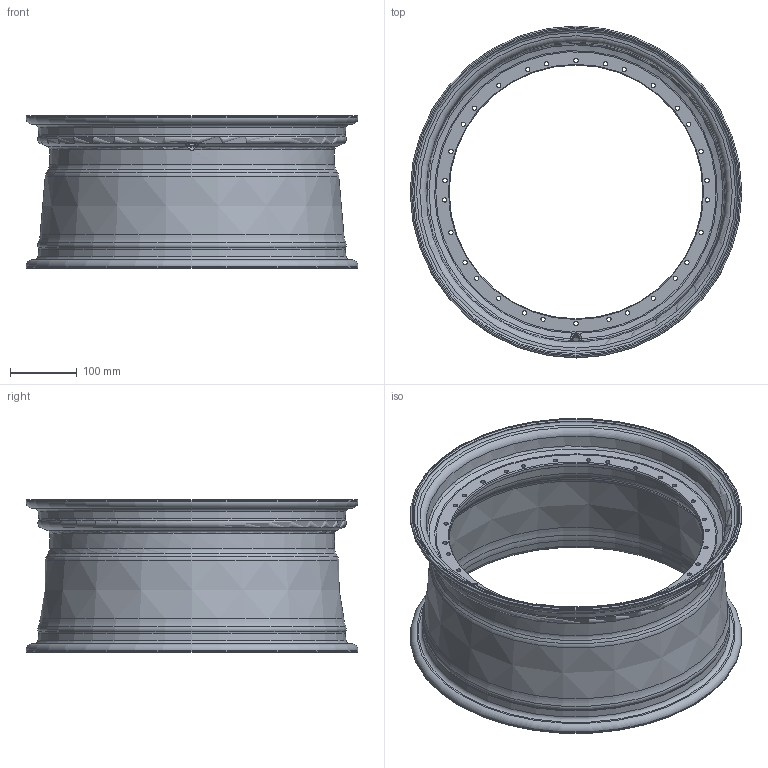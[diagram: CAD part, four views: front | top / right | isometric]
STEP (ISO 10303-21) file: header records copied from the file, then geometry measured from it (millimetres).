
FILE_DESCRIPTION(('STEP AP242'), '1');
FILE_NAME('8x18j 5x120 DIA72,6 ET30', '', ('UNSPECIFIED'), ('UNSPECIFIED'), 'C3D Converter', 'C3D Toolkit', '');
FILE_SCHEMA(('AP242_MANAGED_MODEL_BASED_3D_ENGINEERING_MIM_LF { 1 0 10303 442 1 1 4 }'));
Length unit declared in the file: millimetre
Bounding box: 497 x 497 x 229 mm (x, y, z)
Volume: 2190489.8 mm3; surface area: 803406.1 mm2
Topology: 1 solids, 1 shells, 160 faces, 491 edges, 334 vertices
Faces by surface type: cylinder 45, torus 39, bspline 24, cone 23, plane 21, sphere 8
Full cylindrical faces by diameter (mm): 6.4 x30, 11.3 x1, 16 x1, 380 x1, 427 x1, 497 x2
Entity records: 10600 total; most frequent: CARTESIAN_POINT 5063, DIRECTION 886, ORIENTED_EDGE 810, AXIS2_PLACEMENT_3D 431, EDGE_CURVE 405, VERTEX_POINT 334, EDGE_LOOP 311, FACE_BOUND 303
